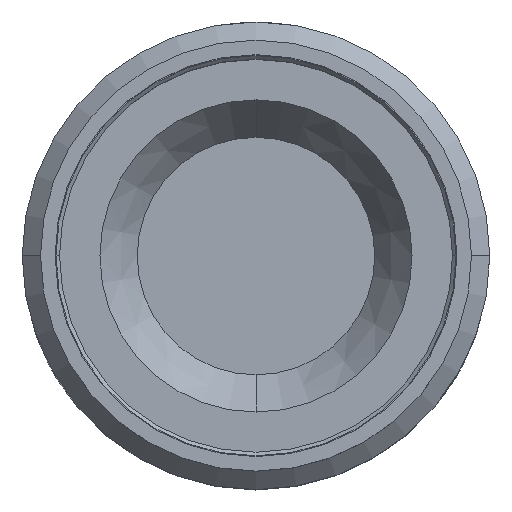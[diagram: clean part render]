
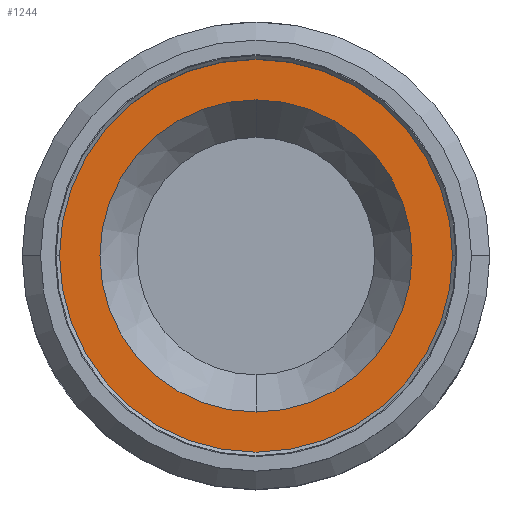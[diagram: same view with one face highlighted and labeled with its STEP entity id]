
A CAD part, top view. The second image highlights one B-rep face of the part: STEP entity #1244.
In plain terms, the highlighted planar face has unit normal (0, 0, 1).
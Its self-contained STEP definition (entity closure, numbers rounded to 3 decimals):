
#223=CARTESIAN_POINT('',(0.,0.,-7.5));
#224=DIRECTION('',(0.,0.,1.));
#225=DIRECTION('',(1.,0.,0.));
#226=AXIS2_PLACEMENT_3D('',#223,#224,#225);
#232=CARTESIAN_POINT('',(0.,0.,-7.5));
#233=DIRECTION('',(0.,0.,1.));
#234=DIRECTION('',(-1.,0.,0.));
#235=AXIS2_PLACEMENT_3D('',#232,#233,#234);
#246=CARTESIAN_POINT('',(0.,0.,-7.5));
#247=DIRECTION('',(0.,0.,-1.));
#248=DIRECTION('',(0.,1.,0.));
#249=AXIS2_PLACEMENT_3D('',#246,#247,#248);
#259=CARTESIAN_POINT('',(0.,0.,-7.5));
#260=DIRECTION('',(0.,0.,1.));
#261=DIRECTION('',(0.,1.,0.));
#262=AXIS2_PLACEMENT_3D('',#259,#260,#261);
#957=CARTESIAN_POINT('',(-7.915,0.,-7.5));
#958=VERTEX_POINT('',#957);
#959=CARTESIAN_POINT('',(7.915,0.,-7.5));
#960=VERTEX_POINT('',#959);
#961=CARTESIAN_POINT('',(0.,6.175,-7.5));
#963=VERTEX_POINT('',#961);
#967=CARTESIAN_POINT('',(0.,-6.175,-7.5));
#969=VERTEX_POINT('',#967);
#1229=CARTESIAN_POINT('',(0.,0.,-7.5));
#1230=DIRECTION('',(0.,0.,-1.));
#1231=DIRECTION('',(0.,-1.,0.));
#1232=AXIS2_PLACEMENT_3D('',#1229,#1230,#1231);
#1233=PLANE('',#1232);
#1234=ORIENTED_EDGE('',*,*,#1211,.F.);
#1235=ORIENTED_EDGE('',*,*,#1222,.F.);
#1236=EDGE_LOOP('',(#1234,#1235));
#1237=FACE_OUTER_BOUND('',#1236,.F.);
#1239=ORIENTED_EDGE('',*,*,#1238,.F.);
#1241=ORIENTED_EDGE('',*,*,#1240,.T.);
#1242=EDGE_LOOP('',(#1239,#1241));
#1243=FACE_BOUND('',#1242,.F.);
#227=CIRCLE('',#226,7.915);
#236=CIRCLE('',#235,7.915);
#250=CIRCLE('',#249,6.175);
#263=CIRCLE('',#262,6.175);
#1211=EDGE_CURVE('',#960,#958,#227,.T.);
#1222=EDGE_CURVE('',#958,#960,#236,.T.);
#1238=EDGE_CURVE('',#963,#969,#250,.T.);
#1240=EDGE_CURVE('',#963,#969,#263,.T.);
#1244=ADVANCED_FACE('',(#1237,#1243),#1233,.F.);
